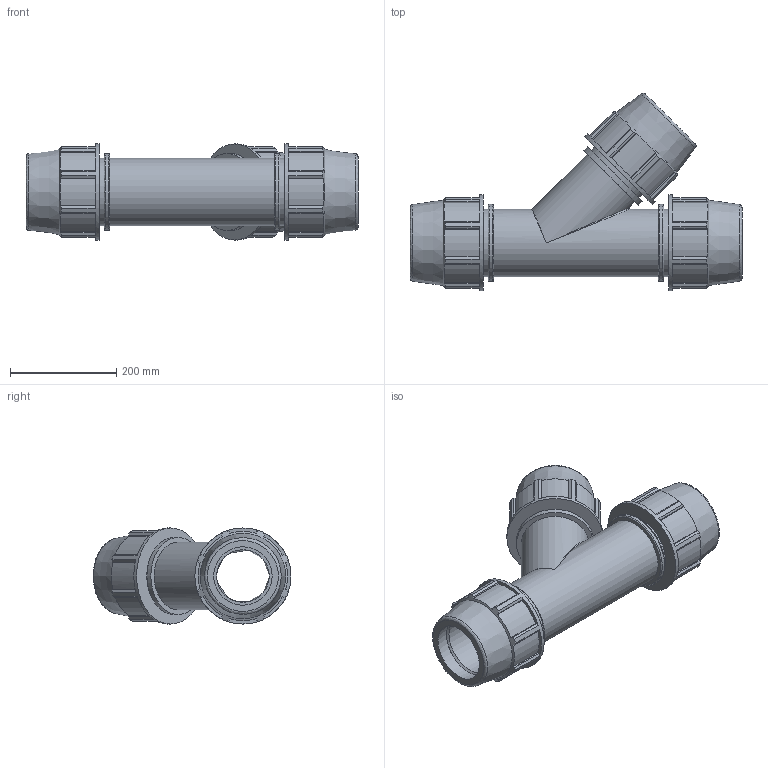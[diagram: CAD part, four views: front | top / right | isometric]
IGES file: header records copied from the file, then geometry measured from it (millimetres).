
Global section: file name: 0764061100A.ipt; native system: Autodesk Inventor 2015; preprocessor: unknown; author: KIM; date: 20170608.042746; units: millimetre
Bounding box: 625 x 372.72 x 181 mm (x, y, z)
Volume: 6600835.5 mm3; surface area: 787412.3 mm2
Topology: 1 solids, 1 shells, 200 faces, 569 edges, 381 vertices
Faces by surface type: plane 139, cylinder 36, revolution 17, cone 6, bspline 2
Full cylindrical faces by diameter (mm): 126.7 x5, 144.8 x3, 181 x3
